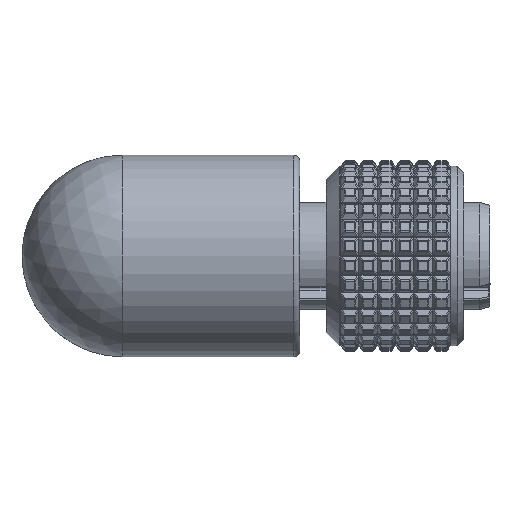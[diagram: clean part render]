
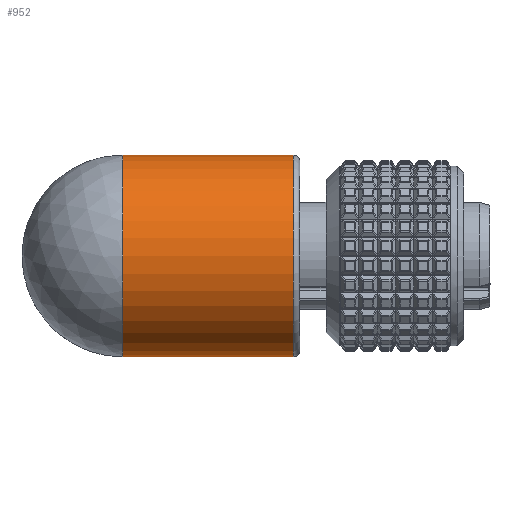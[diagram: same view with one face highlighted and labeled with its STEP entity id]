
A CAD part, left-side view. The second image highlights one B-rep face of the part: STEP entity #952.
In plain terms, the highlighted cylindrical face has radius 7.7 mm (diameter 15.4 mm), a full revolution.
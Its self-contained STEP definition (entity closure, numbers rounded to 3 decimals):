
#871=CARTESIAN_POINT('',(4.1,13.5,7.7));
#872=VERTEX_POINT('',#871);
#873=CARTESIAN_POINT('',(4.1,13.5,-7.7));
#874=VERTEX_POINT('',#873);
#875=CARTESIAN_POINT('',(4.1,13.5,7.7));
#876=CARTESIAN_POINT('',(4.103,13.496,7.7));
#877=CARTESIAN_POINT('',(4.107,13.493,7.7));
#878=CARTESIAN_POINT('',(4.802,12.719,7.699));
#879=CARTESIAN_POINT('',(6.19,11.176,7.511));
#880=CARTESIAN_POINT('',(8.195,8.948,6.649));
#881=CARTESIAN_POINT('',(9.999,6.942,5.143));
#882=CARTESIAN_POINT('',(11.41,5.373,2.921));
#883=CARTESIAN_POINT('',(11.996,4.722,0.));
#884=CARTESIAN_POINT('',(11.509,5.264,-2.434));
#885=CARTESIAN_POINT('',(10.702,6.16,-4.03));
#886=CARTESIAN_POINT('',(9.954,6.993,-5.054));
#887=CARTESIAN_POINT('',(9.096,7.947,-5.898));
#888=CARTESIAN_POINT('',(8.172,8.973,-6.567));
#889=CARTESIAN_POINT('',(7.19,10.066,-7.081));
#890=CARTESIAN_POINT('',(6.183,11.185,-7.438));
#891=CARTESIAN_POINT('',(5.15,12.333,-7.652));
#892=CARTESIAN_POINT('',(4.456,13.104,-7.7));
#893=CARTESIAN_POINT('',(4.107,13.493,-7.7));
#894=CARTESIAN_POINT('',(4.103,13.496,-7.7));
#895=CARTESIAN_POINT('',(4.1,13.5,-7.7));
#896=B_SPLINE_CURVE_WITH_KNOTS('',3,(#875,#876,#877,#878,#879,#880,#881,#882,#883,#884,#885,#886,#887,#888,#889,#890,#891,#892,#893,#894,#895),.UNSPECIFIED.,.F.,.U.,(4,2,1,1,1,1,1,1,1,1,1,1,1,1,1,2,4),(-3.292,-3.291,-2.962,-2.632,-2.303,-1.974,-1.645,-1.316,-1.152,-0.987,-0.823,-0.658,-0.494,-0.329,-0.165,0.0,0.002),.UNSPECIFIED.);
#897=EDGE_CURVE('',#872,#874,#896,.T.);
#926=CARTESIAN_POINT('',(4.1,7.,0.0));
#927=DIRECTION('',(0.,1.0,0.0));
#928=DIRECTION('',(-1.0,0.0,0.0));
#929=AXIS2_PLACEMENT_3D('',#926,#927,#928);
#930=CYLINDRICAL_SURFACE('',#929,7.7);
#931=CARTESIAN_POINT('',(-3.6,0.5,0.0));
#932=VERTEX_POINT('',#931);
#933=CARTESIAN_POINT('',(4.1,0.5,0.0));
#934=DIRECTION('',(0.0,1.0,0.0));
#935=DIRECTION('',(-1.0,0.0,0.0));
#936=AXIS2_PLACEMENT_3D('',#933,#934,#935);
#937=CIRCLE('',#936,7.7);
#938=EDGE_CURVE('',#932,#932,#937,.T.);
#939=ORIENTED_EDGE('',*,*,#938,.T.);
#940=EDGE_LOOP('',(#939));
#941=FACE_OUTER_BOUND('',#940,.T.);
#942=ORIENTED_EDGE('',*,*,#897,.F.);
#943=CARTESIAN_POINT('',(4.1,13.5,0.0));
#944=DIRECTION('',(0.0,1.0,0.0));
#945=DIRECTION('',(-1.0,0.0,0.0));
#946=AXIS2_PLACEMENT_3D('',#943,#944,#945);
#947=CIRCLE('',#946,7.7);
#948=EDGE_CURVE('',#874,#872,#947,.T.);
#949=ORIENTED_EDGE('',*,*,#948,.F.);
#950=EDGE_LOOP('',(#942,#949));
#951=FACE_BOUND('',#950,.T.);
#952=ADVANCED_FACE('',(#941,#951),#930,.T.);
